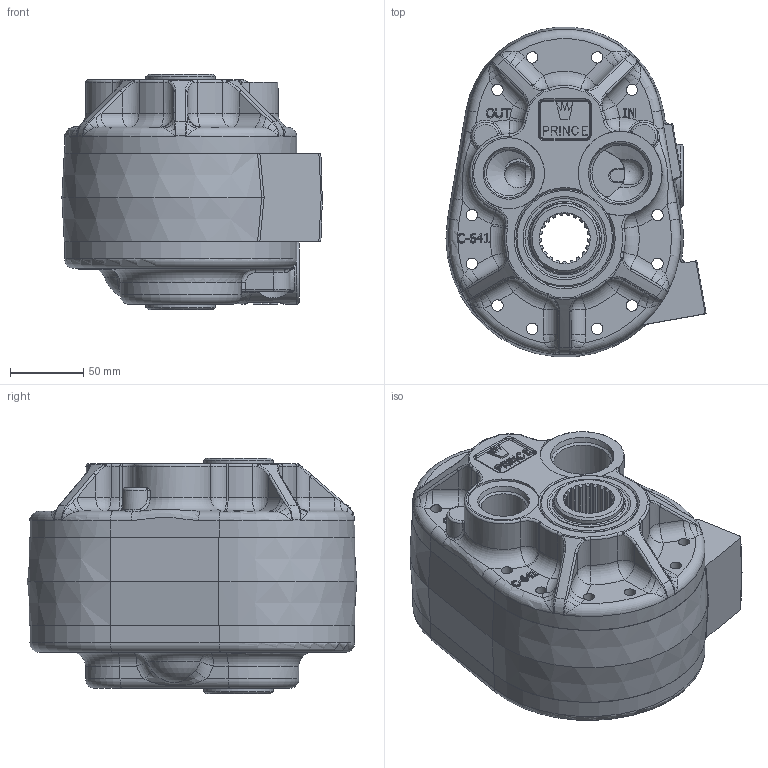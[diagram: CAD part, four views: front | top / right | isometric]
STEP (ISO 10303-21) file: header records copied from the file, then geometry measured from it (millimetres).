
FILE_DESCRIPTION((''),'2;1');
FILE_NAME('C:\Vault\Workspace\AssembliesPumps\HC-P_\HC-P-K11model.stp','2013-06-05T09:04:44',('otterbyj'),(''),'Autodesk Inventor 2012','Autodesk Inventor 2012','');
FILE_SCHEMA(('AUTOMOTIVE_DESIGN { 1 0 10303 214 1 1 1 1 }'));
Length unit declared in the file: inch
Products named in the file (6): HC-P-K11model; 500101004; 500101015; 500103020; 500104025model; 240016026
Assembly tree (6 placements, depth 2):
  HC-P-K11model
    500101004
    500101015
    500103020
    500104025model
    240016026  x2
Bounding box: 178.04 x 225.58 x 161.29 mm (x, y, z)
Volume: 2306903.2 mm3; surface area: 397789.2 mm2
Topology: 6 solids, 8 shells, 1240 faces, 3237 edges, 2018 vertices
Faces by surface type: plane 389, cylinder 303, bspline 300, cone 116, torus 108, sphere 24
Full cylindrical faces by diameter (mm): 7.798 x16, 9.545 x6, 10.319 x28, 16.256 x1, 19.05 x1, 20.574 x1, 23.8 x1, 30.963 x1, 37.033 x1, 38.887 x1, 41.255 x2, 42.926 x1, 47.582 x1, 48.514 x1, 53.184 x2, 61.04 x2, 61.89 x2, 64.77 x2, 66.599 x2, 66.802 x2
Entity records: 44367 total; most frequent: CARTESIAN_POINT 15671, ORIENTED_EDGE 5962, DIRECTION 5142, EDGE_CURVE 2981, AXIS2_PLACEMENT_3D 1945, VERTEX_POINT 1930, EDGE_LOOP 1469, VECTOR 1252
